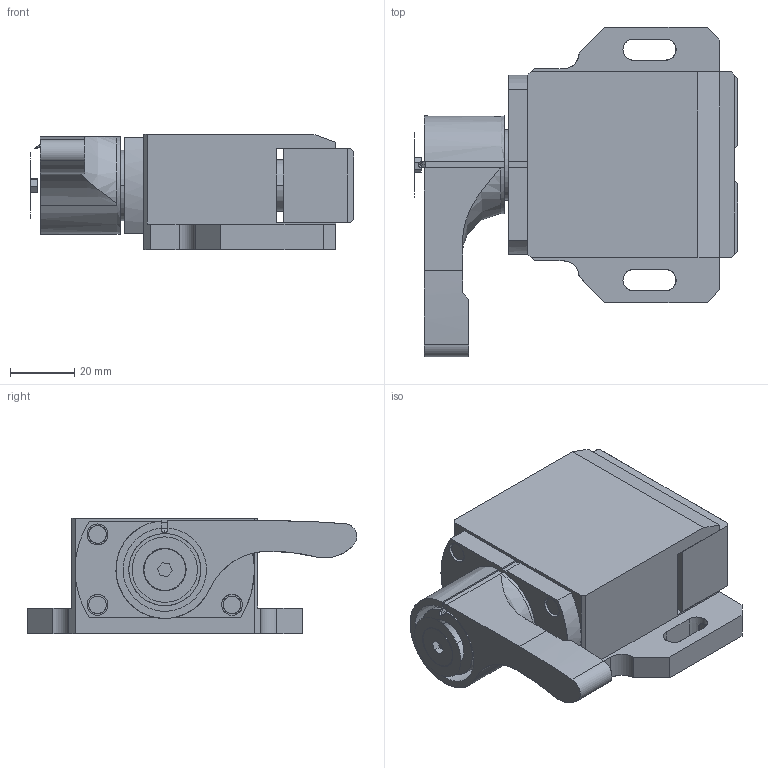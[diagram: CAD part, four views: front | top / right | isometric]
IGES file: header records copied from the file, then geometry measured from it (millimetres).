
Start section: SolidWorks IGES file using analytic representation for surfaces
Global section: file name: X:\14_SW2023(ver2023)\08_2025-01新製品(WHS)\OTC\@データ\qlscw36-200\QLSCW36-200.igs; native system: SolidWorks 2023; preprocessor: SolidWorks 2023; author: yozawa; date: 241106.145129; units: millimetre
Bounding box: 101.03 x 103 x 36 mm (x, y, z)
Surface area: 53303.5 mm2 (no closed solid volume)
Topology: 0 solids, 0 shells, 262 faces, 4433 edges, 4433 vertices
Faces by surface type: bspline 141, revolution 121
